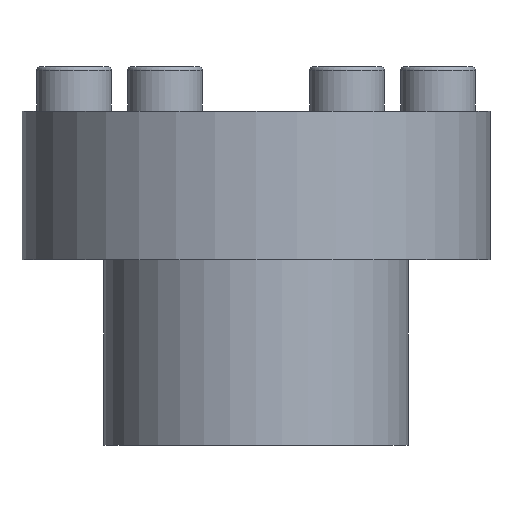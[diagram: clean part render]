
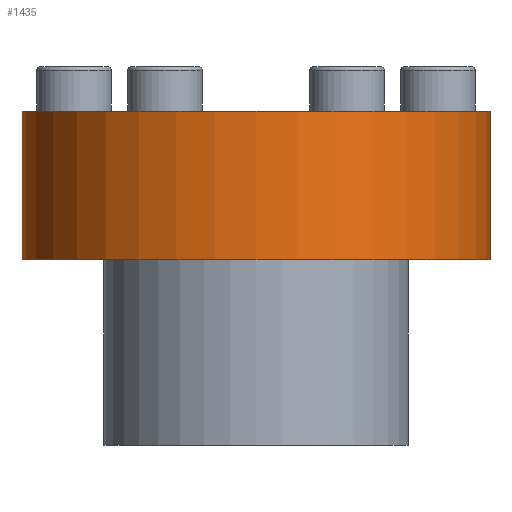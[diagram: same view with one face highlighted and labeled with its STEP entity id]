
A CAD part, front view. The second image highlights one B-rep face of the part: STEP entity #1435.
In plain terms, the highlighted cylindrical face has radius 31.5 mm (diameter 63 mm), a partial arc.
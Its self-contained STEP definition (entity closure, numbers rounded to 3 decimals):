
#59 = DIRECTION ( 'NONE',  ( 0., 0., 1. ) ) ;
#178 = AXIS2_PLACEMENT_3D ( 'NONE', #720, #1987, #903 ) ;
#227 = CARTESIAN_POINT ( 'NONE',  ( -31.5, 0., -20. ) ) ;
#234 = EDGE_CURVE ( 'NONE', #790, #792, #291, .T. ) ;
#260 = ORIENTED_EDGE ( 'NONE', *, *, #234, .T. ) ;
#291 = LINE ( 'NONE', #1912, #1618 ) ;
#546 = CARTESIAN_POINT ( 'NONE',  ( -31.5, 0., 0. ) ) ;
#586 = CARTESIAN_POINT ( 'NONE',  ( 31.5, 0., -20. ) ) ;
#637 = DIRECTION ( 'NONE',  ( 0., 0., 1. ) ) ;
#653 = CIRCLE ( 'NONE', #178, 31.5 ) ;
#670 = DIRECTION ( 'NONE',  ( 1., 0., 0. ) ) ;
#720 = CARTESIAN_POINT ( 'NONE',  ( 0., 0., -20. ) ) ;
#722 = ORIENTED_EDGE ( 'NONE', *, *, #1882, .T. ) ;
#790 = VERTEX_POINT ( 'NONE', #586 ) ;
#792 = VERTEX_POINT ( 'NONE', #941 ) ;
#810 = VERTEX_POINT ( 'NONE', #1864 ) ;
#900 = DIRECTION ( 'NONE',  ( 0., 0., 1. ) ) ;
#903 = DIRECTION ( 'NONE',  ( 1., 0., 0. ) ) ;
#941 = CARTESIAN_POINT ( 'NONE',  ( 31.5, 0., 0. ) ) ;
#952 = EDGE_CURVE ( 'NONE', #1074, #810, #1477, .T. ) ;
#1067 = CARTESIAN_POINT ( 'NONE',  ( 0., 0., 0. ) ) ;
#1074 = VERTEX_POINT ( 'NONE', #227 ) ;
#1101 = DIRECTION ( 'NONE',  ( 1., 0., 0. ) ) ;
#1252 = DIRECTION ( 'NONE',  ( 0., 0., 1. ) ) ;
#1269 = CARTESIAN_POINT ( 'NONE',  ( 0., 0., 0. ) ) ;
#1279 = CIRCLE ( 'NONE', #2254, 31.5 ) ;
#1394 = VECTOR ( 'NONE', #59, 1000. ) ;
#1398 = EDGE_LOOP ( 'NONE', ( #1470, #722, #260, #2341 ) ) ;
#1435 = ADVANCED_FACE ( 'NONE', ( #1696 ), #1554, .T. ) ;
#1470 = ORIENTED_EDGE ( 'NONE', *, *, #952, .F. ) ;
#1477 = LINE ( 'NONE', #546, #1394 ) ;
#1554 = CYLINDRICAL_SURFACE ( 'NONE', #2059, 31.5 ) ;
#1618 = VECTOR ( 'NONE', #637, 1000. ) ;
#1696 = FACE_OUTER_BOUND ( 'NONE', #1398, .T. ) ;
#1832 = EDGE_CURVE ( 'NONE', #810, #792, #1279, .T. ) ;
#1864 = CARTESIAN_POINT ( 'NONE',  ( -31.5, 0., 0. ) ) ;
#1882 = EDGE_CURVE ( 'NONE', #1074, #790, #653, .T. ) ;
#1912 = CARTESIAN_POINT ( 'NONE',  ( 31.5, 0., 0. ) ) ;
#1987 = DIRECTION ( 'NONE',  ( 0., 0., 1. ) ) ;
#2059 = AXIS2_PLACEMENT_3D ( 'NONE', #1269, #900, #1101 ) ;
#2254 = AXIS2_PLACEMENT_3D ( 'NONE', #1067, #1252, #670 ) ;
#2341 = ORIENTED_EDGE ( 'NONE', *, *, #1832, .F. ) ;
